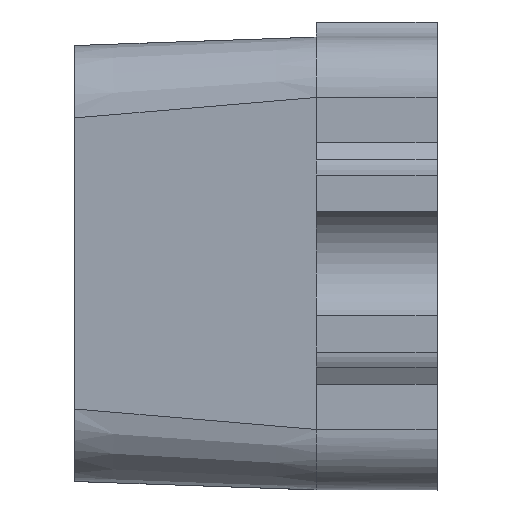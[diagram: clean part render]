
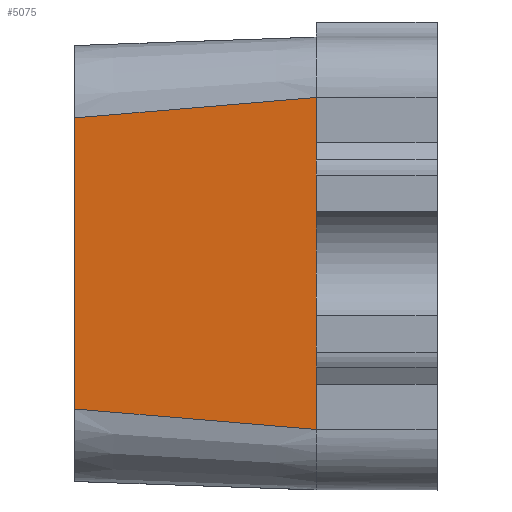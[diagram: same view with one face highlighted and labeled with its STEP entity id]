
A CAD part, left-side view. The second image highlights one B-rep face of the part: STEP entity #5075.
In plain terms, the highlighted planar face has unit normal (-0.999, 0.035, 0).
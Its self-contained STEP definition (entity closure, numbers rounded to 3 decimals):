
#107 = CARTESIAN_POINT ( 'NONE',  ( -3.681, -0.628, -1.732 ) ) ;
#461 = DIRECTION ( 'NONE',  ( 0., 0., 1. ) ) ;
#565 = CARTESIAN_POINT ( 'NONE',  ( -3.69, -0.894, -2.185 ) ) ;
#1039 = CARTESIAN_POINT ( 'NONE',  ( -3.686, -0.761, -1.721 ) ) ;
#1314 = VERTEX_POINT ( 'NONE', #4852 ) ;
#1343 = VECTOR ( 'NONE', #7738, 1000. ) ;
#1401 = DIRECTION ( 'NONE',  ( -0.999, 0.035, 0. ) ) ;
#1428 = ORIENTED_EDGE ( 'NONE', *, *, #8238, .T. ) ;
#1524 = VECTOR ( 'NONE', #2295, 1000. ) ;
#1790 = VECTOR ( 'NONE', #2279, 1000. ) ;
#2263 = ORIENTED_EDGE ( 'NONE', *, *, #8248, .T. ) ;
#2279 = DIRECTION ( 'NONE',  ( 0., 0., 1. ) ) ;
#2295 = DIRECTION ( 'NONE',  ( 0., 0., 1. ) ) ;
#2317 = CARTESIAN_POINT ( 'NONE',  ( -3.69, -0.894, -2.259 ) ) ;
#2603 = DIRECTION ( 'NONE',  ( 0., 0., -1. ) ) ;
#2680 = EDGE_LOOP ( 'NONE', ( #7737, #4515, #1428, #4830, #2263, #6130 ) ) ;
#2733 = EDGE_CURVE ( 'NONE', #3326, #8505, #5062, .T. ) ;
#3032 = CARTESIAN_POINT ( 'NONE',  ( -3.676, -0.494, -2.226 ) ) ;
#3216 = CARTESIAN_POINT ( 'NONE',  ( -3.69, -0.894, -1.985 ) ) ;
#3235 = CARTESIAN_POINT ( 'NONE',  ( -3.69, -0.894, -1.747 ) ) ;
#3326 = VERTEX_POINT ( 'NONE', #7913 ) ;
#3524 = CARTESIAN_POINT ( 'NONE',  ( -3.676, -0.494, -1.985 ) ) ;
#3792 = CARTESIAN_POINT ( 'NONE',  ( -3.69, -0.894, -1.71 ) ) ;
#3843 = VECTOR ( 'NONE', #2603, 1000. ) ;
#3940 = FACE_OUTER_BOUND ( 'NONE', #2680, .T. ) ;
#4127 = LINE ( 'NONE', #3216, #1790 ) ;
#4166 = PLANE ( 'NONE',  #4398 ) ;
#4398 = AXIS2_PLACEMENT_3D ( 'NONE', #2317, #1401, #461 ) ;
#4439 = LINE ( 'NONE', #3524, #3843 ) ;
#4515 = ORIENTED_EDGE ( 'NONE', *, *, #7832, .T. ) ;
#4705 = VERTEX_POINT ( 'NONE', #565 ) ;
#4754 = CARTESIAN_POINT ( 'NONE',  ( -3.69, -0.894, -1.71 ) ) ;
#4830 = ORIENTED_EDGE ( 'NONE', *, *, #7124, .T. ) ;
#4852 = CARTESIAN_POINT ( 'NONE',  ( -3.69, -0.894, -2.259 ) ) ;
#5062 = LINE ( 'NONE', #3235, #1524 ) ;
#5075 = ADVANCED_FACE ( 'NONE', ( #3940 ), #4166, .T. ) ;
#5383 = B_SPLINE_CURVE_WITH_KNOTS ( 'NONE', 3,
 ( #4754, #1039, #107, #8133 ),
 .UNSPECIFIED., .F., .F.,
 ( 4, 4 ),
 ( 0., 1. ),
 .UNSPECIFIED. ) ;
#5391 = VERTEX_POINT ( 'NONE', #3032 ) ;
#5638 = DIRECTION ( 'NONE',  ( 0., 0., 1. ) ) ;
#5841 = LINE ( 'NONE', #6527, #8167 ) ;
#5977 = EDGE_CURVE ( 'NONE', #8505, #6503, #5383, .T. ) ;
#6130 = ORIENTED_EDGE ( 'NONE', *, *, #2733, .T. ) ;
#6173 = LINE ( 'NONE', #8630, #1343 ) ;
#6503 = VERTEX_POINT ( 'NONE', #6774 ) ;
#6527 = CARTESIAN_POINT ( 'NONE',  ( -3.69, -0.894, -2.222 ) ) ;
#6774 = CARTESIAN_POINT ( 'NONE',  ( -3.676, -0.494, -1.743 ) ) ;
#7124 = EDGE_CURVE ( 'NONE', #1314, #4705, #5841, .T. ) ;
#7737 = ORIENTED_EDGE ( 'NONE', *, *, #5977, .T. ) ;
#7738 = DIRECTION ( 'NONE',  ( -0.035, -0.996, -0.085 ) ) ;
#7832 = EDGE_CURVE ( 'NONE', #6503, #5391, #4439, .T. ) ;
#7913 = CARTESIAN_POINT ( 'NONE',  ( -3.69, -0.894, -1.785 ) ) ;
#8133 = CARTESIAN_POINT ( 'NONE',  ( -3.676, -0.494, -1.743 ) ) ;
#8167 = VECTOR ( 'NONE', #5638, 1000. ) ;
#8238 = EDGE_CURVE ( 'NONE', #5391, #1314, #6173, .T. ) ;
#8248 = EDGE_CURVE ( 'NONE', #4705, #3326, #4127, .T. ) ;
#8505 = VERTEX_POINT ( 'NONE', #3792 ) ;
#8630 = CARTESIAN_POINT ( 'NONE',  ( -3.683, -0.696, -2.243 ) ) ;
